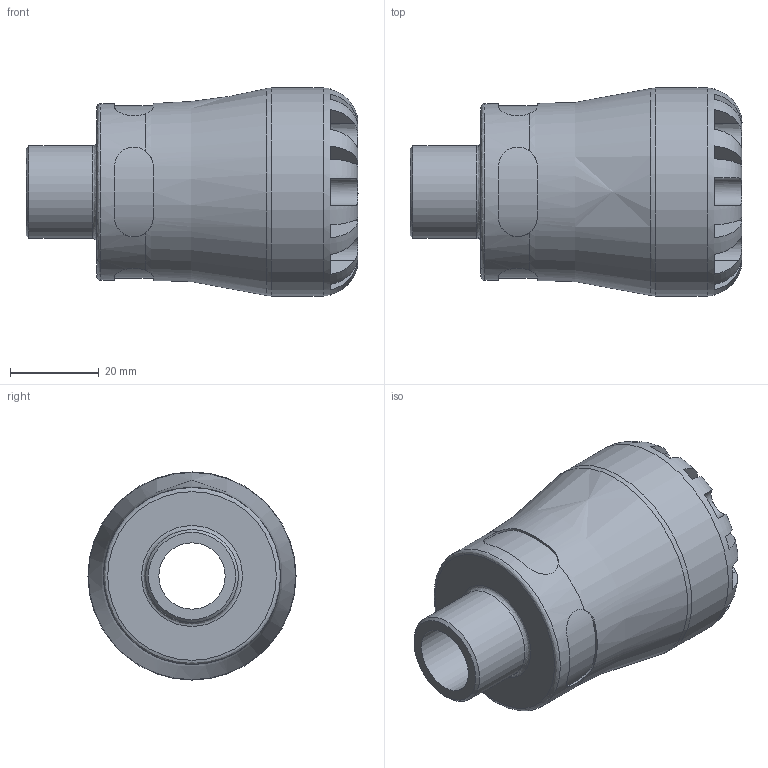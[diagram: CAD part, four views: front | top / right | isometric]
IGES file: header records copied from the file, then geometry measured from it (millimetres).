
Global section: file name: 100200025005_190200025005.ipt; native system: Autodesk Inventor 2015; preprocessor: unknown; author: KIM; date: 20170727.143940; units: millimetre
Bounding box: 75 x 47 x 47 mm (x, y, z)
Volume: 60809.3 mm3; surface area: 17438.6 mm2
Topology: 1 solids, 1 shells, 100 faces, 268 edges, 172 vertices
Faces by surface type: plane 60, revolution 24, cylinder 15, cone 1
Full cylindrical faces by diameter (mm): 20.955 x1, 39.95 x1, 47 x1
